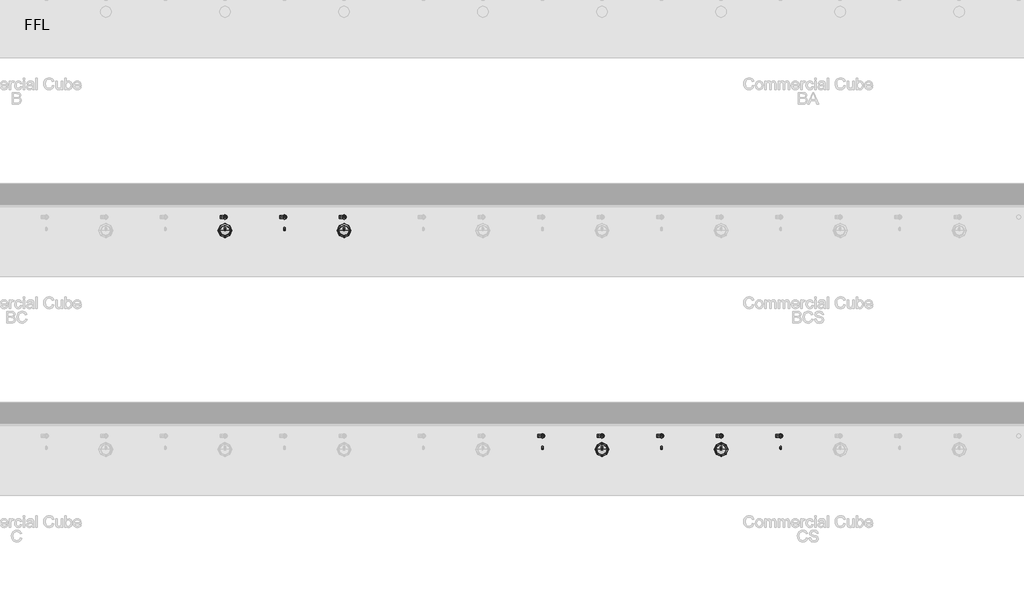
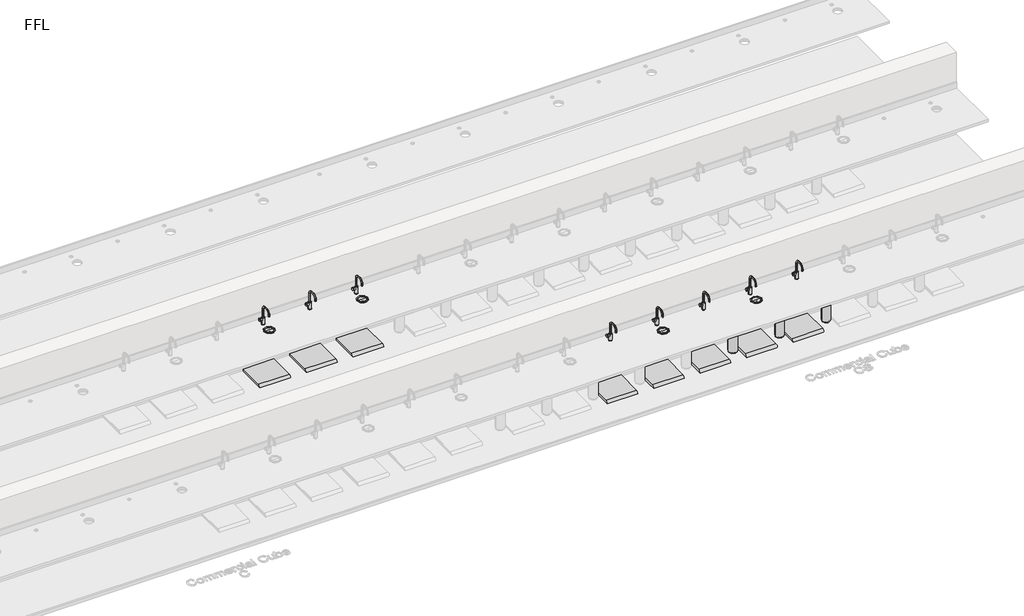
# One storey, part 5 of 14: 31 flow terminals.
"""IFC4 building model written with IfcOpenShell, lengths in millimetres."""

from ifc_helpers import new_model, si_unit, origin, place, context, project, spatial, transform, mapped, element, save
from components import flow_terminal_100_people_nickel_19c471c0, bcs_and_bc_6de74493, bright_chrome_743c02cf, bright_chrome_cb32e6d9, co2_gas_cylinder_20234e14

model = new_model("IFC4")

# Units and contexts
model_context = context("Model", 3, world=origin())
ifc_project = project(units=[si_unit("LENGTHUNIT", "METRE", prefix="MILLI")], contexts=[model_context])

# Site, building, storey
site = spatial("IfcSite", under=ifc_project)
building = spatial("IfcBuilding", under=site)
storey = spatial("IfcBuildingStorey", under=building, Name="FFL", Elevation=0.0)

# Flow terminals
placement = place(None, origin())
flow_terminal_100_people_nickel_shape = flow_terminal_100_people_nickel_19c471c0(model_context)
element("IfcFlowTerminal", 1, ObjectType="PlumFixt_Zip Commercial_Cube_CS : 100 People - Brushed Gold", at=placement, inside=storey, context=model_context, shape_type="MappedRepresentation", body=[
    mapped(flow_terminal_100_people_nickel_shape, transform((4279.2647071, 2062.7393304, 0.0), x_axis=(1.0, 0.0, 0.0), y_axis=(0.0, 1.0, 0.0), z_axis=(0.0, 0.0, 1.0))),
])
element("IfcFlowTerminal", 2, ObjectType="PlumFixt_Zip Commercial_Cube_CS : 100 People - Brushed Nickel", at=placement, inside=storey, context=model_context, shape_type="MappedRepresentation", body=[
    mapped(flow_terminal_100_people_nickel_shape, transform((5029.2647071, 2062.7393304, 0.0), x_axis=(1.0, 0.0, 0.0), y_axis=(0.0, 1.0, 0.0), z_axis=(0.0, 0.0, 1.0))),
])
element("IfcFlowTerminal", 3, ObjectType="PlumFixt_Zip Commercial_Cube_CS : 100 People - Brushed Rose Gold", at=placement, inside=storey, context=model_context, shape_type="MappedRepresentation", body=[
    mapped(flow_terminal_100_people_nickel_shape, transform((5779.2647071, 2062.7393304, 0.0), x_axis=(1.0, 0.0, 0.0), y_axis=(0.0, 1.0, 0.0), z_axis=(0.0, 0.0, 1.0))),
])
element("IfcFlowTerminal", 4, ObjectType="PlumFixt_Zip Commercial_Cube_CS : 100 People - Gloss Black", at=placement, inside=storey, context=model_context, shape_type="MappedRepresentation", body=[
    mapped(flow_terminal_100_people_nickel_shape, transform((6529.2647071, 2062.7393304, 0.0), x_axis=(1.0, 0.0, 0.0), y_axis=(0.0, 1.0, 0.0), z_axis=(0.0, 0.0, 1.0))),
])
element("IfcFlowTerminal", 5, ObjectType="PlumFixt_Zip Commercial_Cube_CS : 100 People - Gold", at=placement, inside=storey, context=model_context, shape_type="MappedRepresentation", body=[
    mapped(flow_terminal_100_people_nickel_shape, transform((7279.2647071, 2062.7393304, 0.0), x_axis=(1.0, 0.0, 0.0), y_axis=(0.0, 1.0, 0.0), z_axis=(0.0, 0.0, 1.0))),
])
element("IfcFlowTerminal", 6, ObjectType="PlumFixt_Zip Commercial_Cube_BC : 100 People - Nickel", at=placement, inside=storey, context=model_context, shape_type="MappedRepresentation", body=[
    mapped(flow_terminal_100_people_nickel_shape, transform((279.2647071, 4822.7393304, 0.0), x_axis=(1.0, 0.0, 0.0), y_axis=(0.0, 1.0, 0.0), z_axis=(0.0, 0.0, 1.0))),
])
element("IfcFlowTerminal", 7, ObjectType="PlumFixt_Zip Commercial_Cube_BC : 100 People - Platinum", at=placement, inside=storey, context=model_context, shape_type="MappedRepresentation", body=[
    mapped(flow_terminal_100_people_nickel_shape, transform((1029.2647071, 4822.7393304, 0.0), x_axis=(1.0, 0.0, 0.0), y_axis=(0.0, 1.0, 0.0), z_axis=(0.0, 0.0, 1.0))),
])
element("IfcFlowTerminal", 8, ObjectType="PlumFixt_Zip Commercial_Cube_BC : 100 People - Rose Gold", at=placement, inside=storey, context=model_context, shape_type="MappedRepresentation", body=[
    mapped(flow_terminal_100_people_nickel_shape, transform((1779.2647071, 4822.7393304, 0.0), x_axis=(1.0, 0.0, 0.0), y_axis=(0.0, 1.0, 0.0), z_axis=(0.0, 0.0, 1.0))),
])
bcs_and_bc_shape = bcs_and_bc_6de74493(model_context)
element("IfcFlowTerminal", 9, ObjectType="z_PlumFixt_Zip_Vent Tray : BCS and BC", at=placement, inside=storey, context=model_context, shape_type="MappedRepresentation", body=[
    mapped(bcs_and_bc_shape, transform((279.2647071, 4945.7393304, 100.0), x_axis=(1.0, 0.0, 0.0), y_axis=(0.0, 1.0, 0.0), z_axis=(0.0, 0.0, 1.0))),
])
element("IfcFlowTerminal", 10, ObjectType="z_PlumFixt_Zip_Vent Tray : BCS and BC", at=placement, inside=storey, context=model_context, shape_type="MappedRepresentation", body=[
    mapped(bcs_and_bc_shape, transform((1029.2647071, 4945.7393304, 100.0), x_axis=(1.0, 0.0, 0.0), y_axis=(0.0, 1.0, 0.0), z_axis=(0.0, 0.0, 1.0))),
])
element("IfcFlowTerminal", 11, ObjectType="z_PlumFixt_Zip_Vent Tray : BCS and BC", at=placement, inside=storey, context=model_context, shape_type="MappedRepresentation", body=[
    mapped(bcs_and_bc_shape, transform((1779.2647071, 4945.7393304, 100.0), x_axis=(1.0, 0.0, 0.0), y_axis=(0.0, 1.0, 0.0), z_axis=(0.0, 0.0, 1.0))),
])
bright_chrome_shape = bright_chrome_743c02cf(model_context)
element("IfcFlowTerminal", 12, ObjectType="z_PlumFixt_Zip_Font : Brushed Chrome", at=placement, inside=storey, context=model_context, shape_type="MappedRepresentation", body=[
    mapped(bright_chrome_shape, transform((279.2647071, 4751.2393304, 900.0), x_axis=(1.0000000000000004, 0.0, 0.0), y_axis=(0.0, 1.0000000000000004, 0.0), z_axis=(0.0, 0.0, 1.0))),
])
element("IfcFlowTerminal", 13, ObjectType="z_PlumFixt_Zip_Font : Brushed Chrome", at=placement, inside=storey, context=model_context, shape_type="MappedRepresentation", body=[
    mapped(bright_chrome_shape, transform((1779.2647071, 4751.2393304, 900.0), x_axis=(1.0000000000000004, 0.0, 0.0), y_axis=(0.0, 1.0000000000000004, 0.0), z_axis=(0.0, 0.0, 1.0))),
])
element("IfcFlowTerminal", 14, ObjectType="z_PlumFixt_Zip_Font : Brushed Chrome", at=placement, inside=storey, context=model_context, shape_type="MappedRepresentation", body=[
    mapped(bright_chrome_shape, transform((5029.2647071, 1991.2393304, 900.0), x_axis=(1.0000000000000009, 0.0, 0.0), y_axis=(0.0, 1.0000000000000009, 0.0), z_axis=(0.0, 0.0, 1.0))),
])
element("IfcFlowTerminal", 15, ObjectType="z_PlumFixt_Zip_Font : Brushed Chrome", at=placement, inside=storey, context=model_context, shape_type="MappedRepresentation", body=[
    mapped(bright_chrome_shape, transform((6529.2647071, 1991.2393304, 900.0), x_axis=(1.0000000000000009, 0.0, 0.0), y_axis=(0.0, 1.0000000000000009, 0.0), z_axis=(0.0, 0.0, 1.0))),
])
bright_chrome_2_shape = bright_chrome_cb32e6d9(model_context)
element("IfcFlowTerminal", 16, ObjectType="z_PlumFixt_Zip_Cube : Brushed Gold", at=placement, inside=storey, context=model_context, shape_type="MappedRepresentation", body=[
    mapped(bright_chrome_2_shape, transform((4262.2647071, 2090.7393304, 900.0), x_axis=(1.0000000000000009, 0.0, 0.0), y_axis=(0.0, 1.0000000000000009, 0.0), z_axis=(0.0, 0.0, 1.0))),
])
element("IfcFlowTerminal", 17, ObjectType="z_PlumFixt_Zip_Cube : Brushed Nickel", at=placement, inside=storey, context=model_context, shape_type="MappedRepresentation", body=[
    mapped(bright_chrome_2_shape, transform((5012.2647071, 2090.7393304, 900.0), x_axis=(1.0000000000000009, 0.0, 0.0), y_axis=(0.0, 1.0000000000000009, 0.0), z_axis=(0.0, 0.0, 1.0))),
])
element("IfcFlowTerminal", 18, ObjectType="z_PlumFixt_Zip_Cube : Brushed Rose Gold", at=placement, inside=storey, context=model_context, shape_type="MappedRepresentation", body=[
    mapped(bright_chrome_2_shape, transform((5762.2647071, 2090.7393304, 900.0), x_axis=(1.0000000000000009, 0.0, 0.0), y_axis=(0.0, 1.0000000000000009, 0.0), z_axis=(0.0, 0.0, 1.0))),
])
co2_gas_cylinder_shape = co2_gas_cylinder_20234e14(model_context)
element("IfcFlowTerminal", 19, ObjectType="z_PlumFixt_Zip_CO2 Gas Cylinder : CO2 Gas Cylinder", at=placement, inside=storey, context=model_context, shape_type="MappedRepresentation", body=[
    mapped(co2_gas_cylinder_shape, transform((6191.2647071, 1983.2393304, 100.0), x_axis=(-1.0, 0.0, 0.0), y_axis=(0.0, -1.0, 0.0), z_axis=(0.0, 0.0, 1.0))),
])
element("IfcFlowTerminal", 20, ObjectType="z_PlumFixt_Zip_CO2 Gas Cylinder : CO2 Gas Cylinder", at=placement, inside=storey, context=model_context, shape_type="MappedRepresentation", body=[
    mapped(co2_gas_cylinder_shape, transform((6941.2647071, 1983.2393304, 100.0), x_axis=(-1.0, 0.0, 0.0), y_axis=(0.0, -1.0, 0.0), z_axis=(0.0, 0.0, 1.0))),
])
element("IfcFlowTerminal", 21, ObjectType="z_PlumFixt_Zip_CO2 Gas Cylinder : CO2 Gas Cylinder", at=placement, inside=storey, context=model_context, shape_type="MappedRepresentation", body=[
    mapped(co2_gas_cylinder_shape, transform((7691.2647071, 1983.2393304, 100.0), x_axis=(-1.0, 0.0, 0.0), y_axis=(0.0, -1.0, 0.0), z_axis=(0.0, 0.0, 1.0))),
])
element("IfcFlowTerminal", 22, ObjectType="z_PlumFixt_Zip_Vent Tray : CS and C", at=placement, inside=storey, context=model_context, shape_type="MappedRepresentation", body=[
    mapped(bcs_and_bc_shape, transform((4279.2647071, 2185.7393304, 100.0), x_axis=(1.0, 0.0, 0.0), y_axis=(0.0, 1.0, 0.0), z_axis=(0.0, 0.0, 1.0))),
])
element("IfcFlowTerminal", 23, ObjectType="z_PlumFixt_Zip_Vent Tray : CS and C", at=placement, inside=storey, context=model_context, shape_type="MappedRepresentation", body=[
    mapped(bcs_and_bc_shape, transform((5029.2647071, 2185.7393304, 100.0), x_axis=(1.0, 0.0, 0.0), y_axis=(0.0, 1.0, 0.0), z_axis=(0.0, 0.0, 1.0))),
])
element("IfcFlowTerminal", 24, ObjectType="z_PlumFixt_Zip_Vent Tray : CS and C", at=placement, inside=storey, context=model_context, shape_type="MappedRepresentation", body=[
    mapped(bcs_and_bc_shape, transform((5779.2647071, 2185.7393304, 100.0), x_axis=(1.0, 0.0, 0.0), y_axis=(0.0, 1.0, 0.0), z_axis=(0.0, 0.0, 1.0))),
])
element("IfcFlowTerminal", 25, ObjectType="z_PlumFixt_Zip_Vent Tray : CS and C", at=placement, inside=storey, context=model_context, shape_type="MappedRepresentation", body=[
    mapped(bcs_and_bc_shape, transform((6529.2647071, 2185.7393304, 100.0), x_axis=(1.0, 0.0, 0.0), y_axis=(0.0, 1.0, 0.0), z_axis=(0.0, 0.0, 1.0))),
])
element("IfcFlowTerminal", 26, ObjectType="z_PlumFixt_Zip_Vent Tray : CS and C", at=placement, inside=storey, context=model_context, shape_type="MappedRepresentation", body=[
    mapped(bcs_and_bc_shape, transform((7279.2647071, 2185.7393304, 100.0), x_axis=(1.0, 0.0, 0.0), y_axis=(0.0, 1.0, 0.0), z_axis=(0.0, 0.0, 1.0))),
])
element("IfcFlowTerminal", 27, ObjectType="z_PlumFixt_Zip_Cube : Gloss Black", at=placement, inside=storey, context=model_context, shape_type="MappedRepresentation", body=[
    mapped(bright_chrome_2_shape, transform((6512.2647071, 2090.7393304, 900.0), x_axis=(1.0000000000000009, 0.0, 0.0), y_axis=(0.0, 1.0000000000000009, 0.0), z_axis=(0.0, 0.0, 1.0))),
])
element("IfcFlowTerminal", 28, ObjectType="z_PlumFixt_Zip_Cube : Gold", at=placement, inside=storey, context=model_context, shape_type="MappedRepresentation", body=[
    mapped(bright_chrome_2_shape, transform((7262.2647071, 2090.7393304, 900.0), x_axis=(1.0000000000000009, 0.0, 0.0), y_axis=(0.0, 1.0000000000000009, 0.0), z_axis=(0.0, 0.0, 1.0))),
])
element("IfcFlowTerminal", 29, ObjectType="z_PlumFixt_Zip_Cube : Nickel", at=placement, inside=storey, context=model_context, shape_type="MappedRepresentation", body=[
    mapped(bright_chrome_2_shape, transform((262.2647071, 4850.7393304, 900.0), x_axis=(1.0000000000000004, 0.0, 0.0), y_axis=(0.0, 1.0000000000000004, 0.0), z_axis=(0.0, 0.0, 1.0))),
])
element("IfcFlowTerminal", 30, ObjectType="z_PlumFixt_Zip_Cube : Platinum", at=placement, inside=storey, context=model_context, shape_type="MappedRepresentation", body=[
    mapped(bright_chrome_2_shape, transform((1012.2647071, 4850.7393304, 900.0), x_axis=(1.0000000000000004, 0.0, 0.0), y_axis=(0.0, 1.0000000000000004, 0.0), z_axis=(0.0, 0.0, 1.0))),
])
element("IfcFlowTerminal", 31, ObjectType="z_PlumFixt_Zip_Cube : Rose Gold", at=placement, inside=storey, context=model_context, shape_type="MappedRepresentation", body=[
    mapped(bright_chrome_2_shape, transform((1762.2647071, 4850.7393304, 900.0), x_axis=(1.0000000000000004, 0.0, 0.0), y_axis=(0.0, 1.0000000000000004, 0.0), z_axis=(0.0, 0.0, 1.0))),
])

save(model, "model.ifc")
